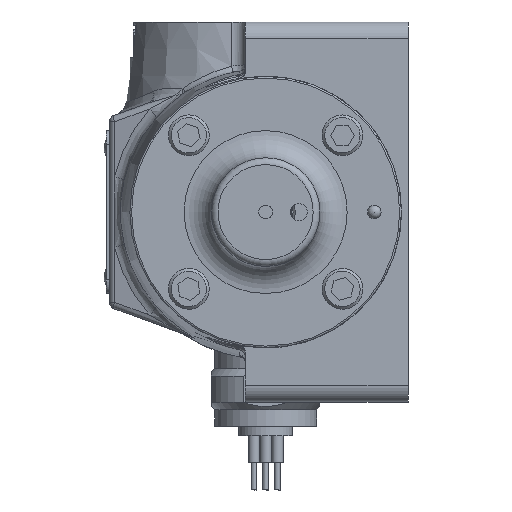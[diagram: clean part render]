
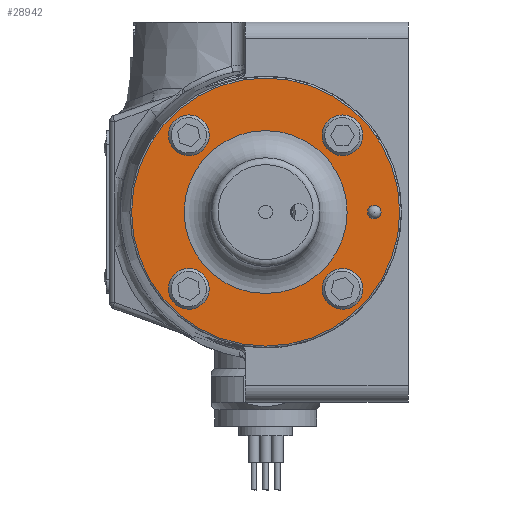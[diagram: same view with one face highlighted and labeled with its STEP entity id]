
A CAD part, left-side view. The second image highlights one B-rep face of the part: STEP entity #28942.
In plain terms, the highlighted planar face has unit normal (-1, 0, 0).
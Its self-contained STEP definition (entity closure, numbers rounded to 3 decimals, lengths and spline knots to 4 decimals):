
#705=FACE_BOUND('',#5531,.T.);
#706=FACE_BOUND('',#5532,.T.);
#707=FACE_BOUND('',#5533,.T.);
#708=FACE_BOUND('',#5534,.T.);
#709=FACE_BOUND('',#5535,.T.);
#710=FACE_BOUND('',#5536,.T.);
#2580=PLANE('',#31005);
#3719=FACE_OUTER_BOUND('',#5530,.T.);
#5530=EDGE_LOOP('',(#21999));
#5531=EDGE_LOOP('',(#22000));
#5532=EDGE_LOOP('',(#22001));
#5533=EDGE_LOOP('',(#22002));
#5534=EDGE_LOOP('',(#22003));
#5535=EDGE_LOOP('',(#22004,#22005));
#5536=EDGE_LOOP('',(#22006));
#7129=CIRCLE('',#31006,3.1353);
#7130=CIRCLE('',#31007,0.4763);
#7131=CIRCLE('',#31008,0.4763);
#7132=CIRCLE('',#31009,0.4763);
#7133=CIRCLE('',#31010,0.4763);
#7134=CIRCLE('',#31011,0.1588);
#7135=CIRCLE('',#31012,0.1588);
#7136=CIRCLE('',#31013,1.905);
#12431=VERTEX_POINT('',#61128);
#12432=VERTEX_POINT('',#61130);
#12433=VERTEX_POINT('',#61132);
#12434=VERTEX_POINT('',#61134);
#12435=VERTEX_POINT('',#61136);
#12436=VERTEX_POINT('',#61138);
#12437=VERTEX_POINT('',#61139);
#12438=VERTEX_POINT('',#61142);
#15831=EDGE_CURVE('',#12431,#12431,#7129,.T.);
#15832=EDGE_CURVE('',#12432,#12432,#7130,.T.);
#15833=EDGE_CURVE('',#12433,#12433,#7131,.T.);
#15834=EDGE_CURVE('',#12434,#12434,#7132,.T.);
#15835=EDGE_CURVE('',#12435,#12435,#7133,.T.);
#15836=EDGE_CURVE('',#12436,#12437,#7134,.T.);
#15837=EDGE_CURVE('',#12437,#12436,#7135,.T.);
#15838=EDGE_CURVE('',#12438,#12438,#7136,.T.);
#21999=ORIENTED_EDGE('',*,*,#15831,.F.);
#22000=ORIENTED_EDGE('',*,*,#15832,.T.);
#22001=ORIENTED_EDGE('',*,*,#15833,.T.);
#22002=ORIENTED_EDGE('',*,*,#15834,.T.);
#22003=ORIENTED_EDGE('',*,*,#15835,.T.);
#22004=ORIENTED_EDGE('',*,*,#15836,.T.);
#22005=ORIENTED_EDGE('',*,*,#15837,.T.);
#22006=ORIENTED_EDGE('',*,*,#15838,.F.);
#28942=ADVANCED_FACE('',(#3719,#705,#706,#707,#708,#709,#710),#2580,.F.);
#31005=AXIS2_PLACEMENT_3D('',#61127,#35612,#35613);
#31006=AXIS2_PLACEMENT_3D('',#61129,#35614,#35615);
#31007=AXIS2_PLACEMENT_3D('',#61131,#35616,#35617);
#31008=AXIS2_PLACEMENT_3D('',#61133,#35618,#35619);
#31009=AXIS2_PLACEMENT_3D('',#61135,#35620,#35621);
#31010=AXIS2_PLACEMENT_3D('',#61137,#35622,#35623);
#31011=AXIS2_PLACEMENT_3D('',#61140,#35624,#35625);
#31012=AXIS2_PLACEMENT_3D('',#61141,#35626,#35627);
#31013=AXIS2_PLACEMENT_3D('',#61143,#35628,#35629);
#35612=DIRECTION('center_axis',(1.,0.,0.));
#35613=DIRECTION('ref_axis',(0.,0.,
-1.));
#35614=DIRECTION('center_axis',(1.,0.,0.));
#35615=DIRECTION('ref_axis',(0.,0.,
-1.));
#35616=DIRECTION('center_axis',(1.,0.,0.));
#35617=DIRECTION('ref_axis',(0.,0.308,-0.951));
#35618=DIRECTION('center_axis',(1.,0.,0.));
#35619=DIRECTION('ref_axis',(0.,0.37,-0.929));
#35620=DIRECTION('center_axis',(1.,0.,0.));
#35621=DIRECTION('ref_axis',(0.,0.696,-0.718));
#35622=DIRECTION('center_axis',(1.,0.,0.));
#35623=DIRECTION('ref_axis',(0.,0.,
-1.));
#35624=DIRECTION('center_axis',(1.,0.,0.));
#35625=DIRECTION('ref_axis',(0.,0.,
-1.));
#35626=DIRECTION('center_axis',(1.,0.,0.));
#35627=DIRECTION('ref_axis',(0.,0.,
-1.));
#35628=DIRECTION('center_axis',(-1.,0.,0.));
#35629=DIRECTION('ref_axis',(0.,0.,
-1.));
#61127=CARTESIAN_POINT('Origin',(-6.1074,0.,0.));
#61128=CARTESIAN_POINT('',(-6.1074,0.,3.1353));
#61129=CARTESIAN_POINT('Origin',(-6.1074,0.,0.));
#61130=CARTESIAN_POINT('',(-6.1074,1.6491,2.2491));
#61131=CARTESIAN_POINT('Origin',(-6.1074,1.7961,1.7961));
#61132=CARTESIAN_POINT('',(-6.1074,1.6197,-1.3536));
#61133=CARTESIAN_POINT('Origin',(-6.1074,1.7961,-1.7961));
#61134=CARTESIAN_POINT('',(-6.1074,-2.1276,-1.4542));
#61135=CARTESIAN_POINT('Origin',(-6.1074,-1.7961,-1.7961));
#61136=CARTESIAN_POINT('',(-6.1074,-1.7961,2.2723));
#61137=CARTESIAN_POINT('Origin',(-6.1074,-1.7961,1.7961));
#61138=CARTESIAN_POINT('',(-6.1074,-2.54,0.1588));
#61139=CARTESIAN_POINT('',(-6.1074,-2.54,-0.1587));
#61140=CARTESIAN_POINT('Origin',(-6.1074,-2.54,0.));
#61141=CARTESIAN_POINT('Origin',(-6.1074,-2.54,0.));
#61142=CARTESIAN_POINT('',(-6.1074,0.,1.905));
#61143=CARTESIAN_POINT('Origin',(-6.1074,0.,0.));
